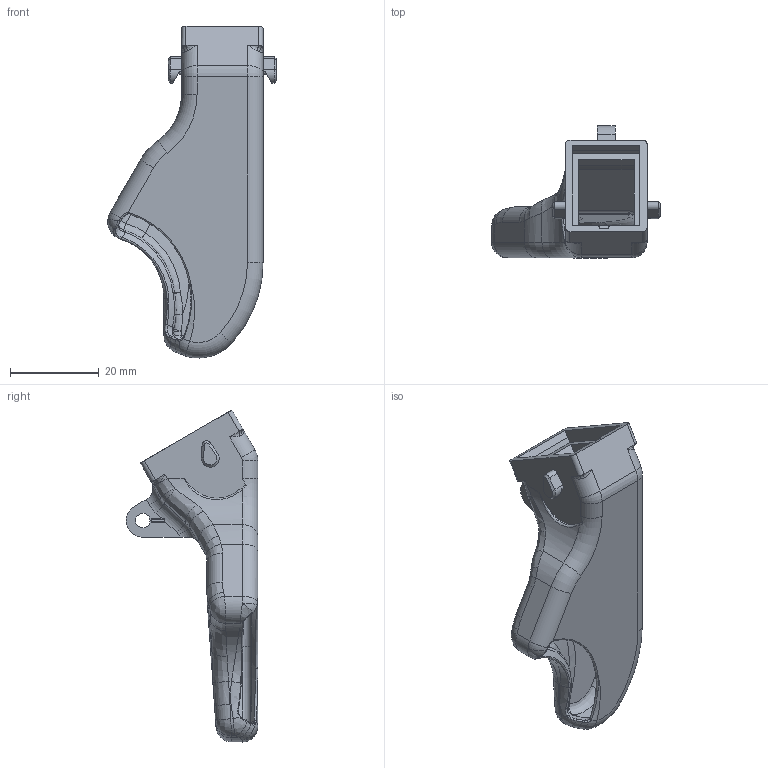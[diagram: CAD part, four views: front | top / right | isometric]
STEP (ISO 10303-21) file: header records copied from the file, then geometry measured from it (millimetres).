
FILE_DESCRIPTION(('CATIA V5 STEP Exchange'),'2;1');
FILE_NAME('E:\Dropbox\3D Printer Fan Duct Designs\1.) Artillery Sidewinder X1\3D Models\5015 Double Ducts\HEMERA MATRIX\Hemera ALL Step Files\RH 5015 Duct.stp','2022-01-08T18:46:01+00:00',('none'),('none'),'CATIA Version 5 Release 20 SP 1 (IN-10)','CATIA V5 STEP AP214','none');
FILE_SCHEMA(('AUTOMOTIVE_DESIGN { 1 0 10303 214 1 1 1 1 }'));
Length unit declared in the file: millimetre
Products named in the file (1): DUCT_DOPPIA_5015_DX_HEMERA_MATRIX
Bounding box: 38.09 x 29.75 x 75 mm (x, y, z)
Volume: 9420.2 mm3; surface area: 9384.3 mm2
Topology: 1 solids, 1 shells, 313 faces, 787 edges, 460 vertices
Faces by surface type: bspline 110, cylinder 80, plane 65, torus 38, cone 10, sphere 10
Entity records: 15438 total; most frequent: CARTESIAN_POINT 8476, ORIENTED_EDGE 1538, DIRECTION 771, EDGE_CURVE 769, VERTEX_POINT 460, B_SPLINE_CURVE_WITH_KNOTS 374, AXIS2_PLACEMENT_3D 359, EDGE_LOOP 319
